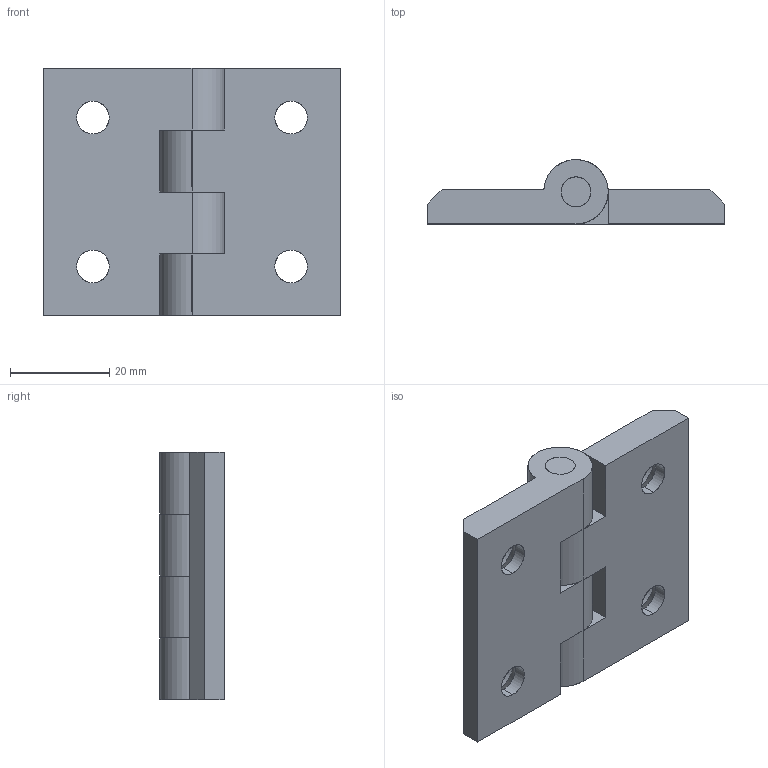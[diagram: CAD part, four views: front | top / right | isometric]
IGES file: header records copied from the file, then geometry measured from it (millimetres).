
Start section: SolidWorks IGES file using analytic representation for surfaces
Global section: file name: D:\LETROMEC CATALOGUE\Hinge\LIMA-HZC40X40-8\LIMA-HZC40X40.IGS; native system: SolidWorks 2013; preprocessor: SolidWorks 2013; author: User; date: 180315.205310; units: millimetre
Bounding box: 60 x 12.99 x 50 mm (x, y, z)
Surface area: 11185.4 mm2 (no closed solid volume)
Topology: 0 solids, 0 shells, 62 faces, 1080 edges, 1080 vertices
Faces by surface type: revolution 38, bspline 24
